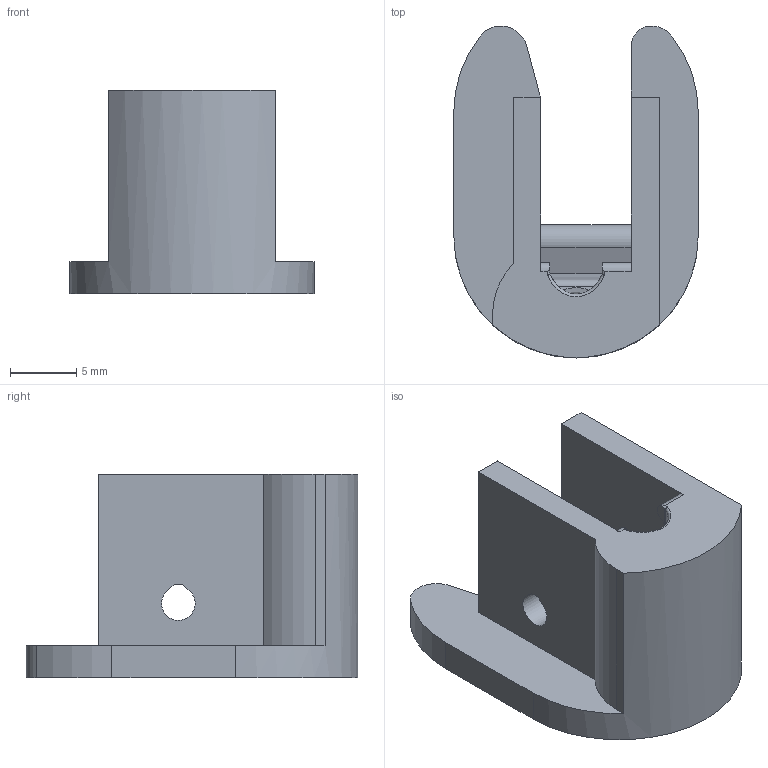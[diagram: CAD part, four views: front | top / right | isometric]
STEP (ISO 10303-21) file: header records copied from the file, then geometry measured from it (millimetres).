
FILE_DESCRIPTION(/* description */ ('STEP AP242','CAx-IF Rec.Pracs.---Representation and Presentation of Product Manufacturing Information (PMI)---4.0---2014-10-13','CAx-IF Rec.Pracs.---3D Tessellated Geometry---0.4---2014-09-14','2;1'),/* implementation_level */ '2;1');
FILE_NAME(/* name */ '61ff3f97b206e22c6873e703',/* time_stamp */ '2022-02-06T03:25:12+00:00',/* author */ (''),/* organization */ (''),/* preprocessor_version */ 'ST-DEVELOPER v18.101',/* originating_system */ ' ',/* authorisation */ ' ');
FILE_SCHEMA (('AP242_MANAGED_MODEL_BASED_3D_ENGINEERING_MIM_LF { 1 0 10303 442 1 1 4 }'));
Length unit declared in the file: metre
Products named in the file (1): Block
Bounding box: 18.41 x 25.01 x 15.37 mm (x, y, z)
Volume: 2145.2 mm3; surface area: 2079.9 mm2
Topology: 1 solids, 1 shells, 51 faces, 155 edges, 106 vertices
Faces by surface type: plane 26, cylinder 18, bspline 4, torus 3
Entity records: 1974 total; most frequent: CARTESIAN_POINT 578, ORIENTED_EDGE 308, DIRECTION 264, EDGE_CURVE 154, VERTEX_POINT 106, AXIS2_PLACEMENT_3D 92, LINE 80, VECTOR 80
